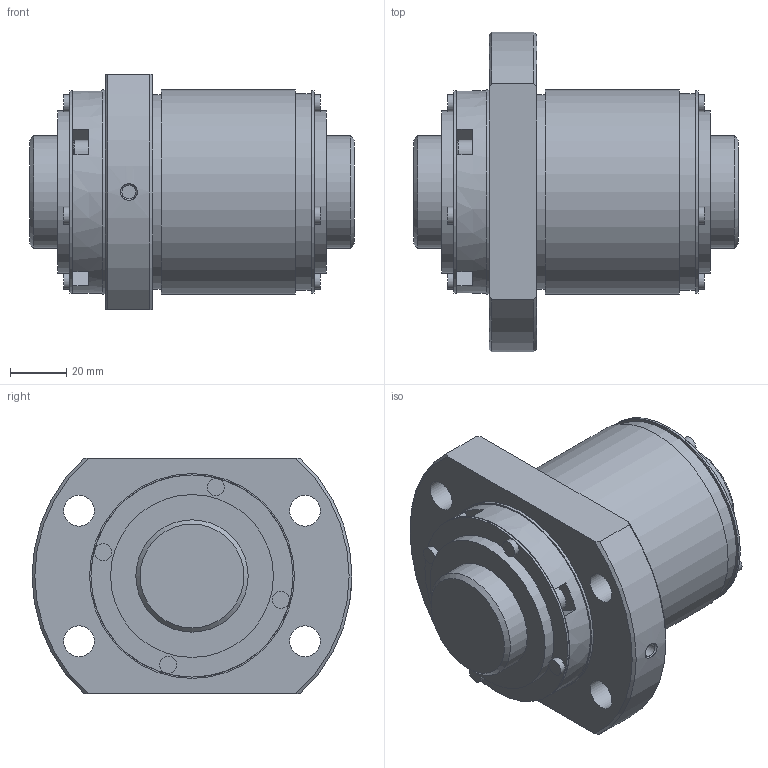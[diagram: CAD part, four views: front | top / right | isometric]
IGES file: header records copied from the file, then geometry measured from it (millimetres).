
Start section: Data from Parasolid IGES Translator 26.0.171, Copyright(c) 2006 Siemens PLM Software. All Rights Reserved.
Global section: file name: BLK4040-3.6ZZG1+115.8LC3_0_1300.igs; native system: By Siemens PLM Incorporated; preprocessor: XPlus GENERIC/IGES 26.0.171; author: Noname; organization: Noname; date: 20250116.070517; units: millimetre
Bounding box: 115.8 x 114 x 84 mm (x, y, z)
Surface area: 72929.7 mm2 (no closed solid volume)
Topology: 0 solids, 0 shells, 156 faces, 704 edges, 638 vertices
Faces by surface type: extrusion 95, revolution 61
